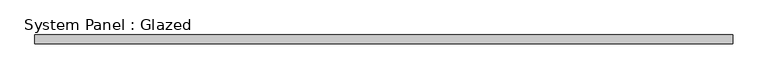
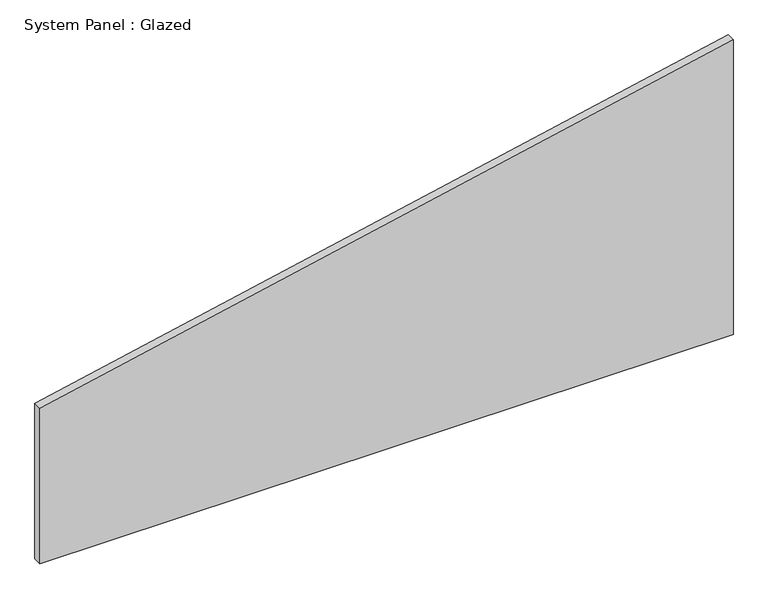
"""IFC4 building model written with IfcOpenShell, lengths in millimetres: plate geometry, System Panel : Glazed."""

from ifc_helpers import new_model, si_unit, frame, origin, place, context, project, spatial, polyline, outline, extrude, source, transform, mapped, element, save


def system_panel_glazed_8885a126(model_context):
    return source(origin(), model_context, "Body", "SweptSolid", [
        extrude(outline(polyline([(0.0, -1000.0), (0.0, 1000.0), (899.5079199, 1000.0), (474.3947966, -1000.0), (0.0, -1000.0)])), frame((0.0, -49.5, 0.0), z_axis=(0.0, 1.0, 0.0), x_axis=(0.0, 0.0, 1.0)), (0.0, 0.0, 1.0), 25.0),
    ])


if __name__ == "__main__":
    model = new_model("IFC4")
    model_context = context("Model", 3, world=origin())
    ifc_project = project(units=[si_unit("LENGTHUNIT", "METRE", prefix="MILLI")], contexts=[model_context])
    site = spatial("IfcSite", under=ifc_project)
    building = spatial("IfcBuilding", under=site)
    placement = place(None, origin())
    system_panel_glazed_shape = system_panel_glazed_8885a126(model_context)
    element("IfcPlate", 1, ObjectType="System Panel : Glazed", at=placement, inside=building, context=model_context, shape_type="MappedRepresentation", body=[
        mapped(system_panel_glazed_shape, transform((0.0, 0.0, 0.0), x_axis=(1.0, 0.0, 0.0), y_axis=(0.0, 1.0, 0.0), z_axis=(0.0, 0.0, 1.0))),
    ])
    save(model, "model.ifc")
